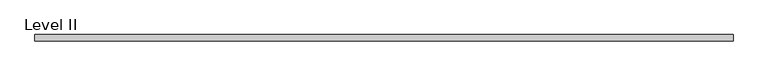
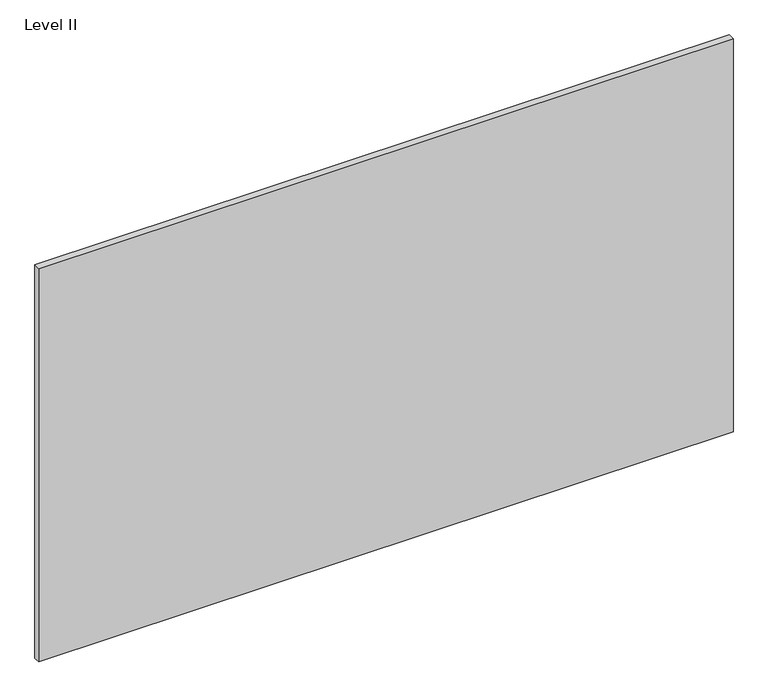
"""IFC4 building model written with IfcOpenShell, lengths in millimetres: proxy geometry, Panel-Fascia-Teknion-Altos-Landscape : Level II."""

from ifc_helpers import new_model, si_unit, frame, origin, place, context, project, spatial, polyline, outline, extrude, source, transform, mapped, element, save


def level_ii_231fb084(model_context):
    return source(origin(), model_context, "Body", "SweptSolid", [
        extrude(outline(polyline([(1012.8305563, 9.525), (1012.8305563, -9.525), (-1012.8305562, -9.525), (-1012.8305562, 9.525), (1012.8305563, 9.525)])), frame((0.0, 0.0, 3.175), z_axis=(0.0, 0.0, 1.0), x_axis=(1.0, 0.0, 0.0)), (0.0, 0.0, 1.0), 1212.85),
    ])


if __name__ == "__main__":
    model = new_model("IFC4")
    model_context = context("Model", 3, world=origin())
    ifc_project = project(units=[si_unit("LENGTHUNIT", "METRE", prefix="MILLI")], contexts=[model_context])
    site = spatial("IfcSite", under=ifc_project)
    building = spatial("IfcBuilding", under=site)
    placement = place(None, origin())
    level_ii_shape = level_ii_231fb084(model_context)
    element("IfcBuildingElementProxy", 1, Name="Panel-Fascia-Teknion-Altos-Landscape : Level II", ObjectType="Panel-Fascia-Teknion-Altos-Landscape : Level II", at=placement, inside=building, context=model_context, shape_type="MappedRepresentation", body=[
        mapped(level_ii_shape, transform((0.0, 0.0, 0.0), x_axis=(1.0, 0.0, 0.0), y_axis=(0.0, 1.0, 0.0), z_axis=(0.0, 0.0, 1.0))),
    ])
    save(model, "model.ifc")
